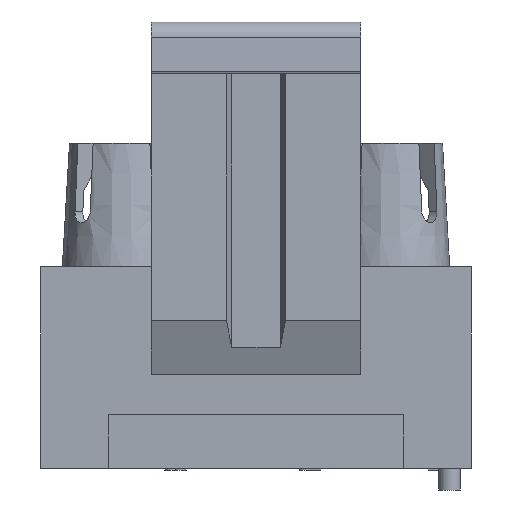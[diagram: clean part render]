
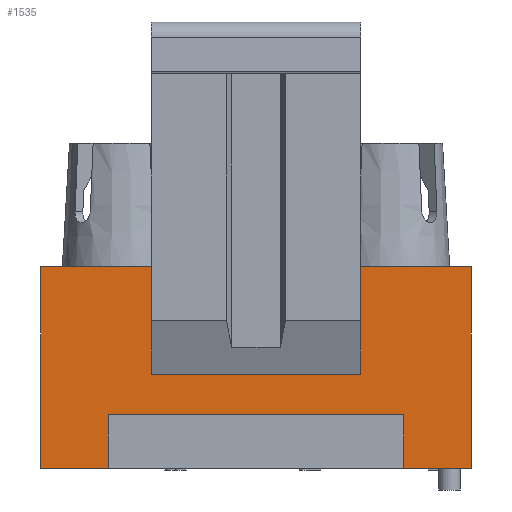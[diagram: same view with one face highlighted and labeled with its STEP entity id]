
A CAD part, front view. The second image highlights one B-rep face of the part: STEP entity #1535.
In plain terms, the highlighted planar face has unit normal (0, -1, 0).
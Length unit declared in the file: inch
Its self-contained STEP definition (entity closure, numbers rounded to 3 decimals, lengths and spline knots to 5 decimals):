
#35 = VERTEX_POINT ( 'NONE', #3735 ) ;
#36 = VERTEX_POINT ( 'NONE', #3737 ) ;
#45 = EDGE_CURVE ( 'NONE', #262, #274, #3739, .T. ) ;
#52 = VERTEX_POINT ( 'NONE', #3721 ) ;
#56 = VERTEX_POINT ( 'NONE', #3715 ) ;
#59 = EDGE_CURVE ( 'NONE', #56, #35, #3758, .T. ) ;
#79 = EDGE_CURVE ( 'NONE', #36, #52, #3764, .T. ) ;
#248 = EDGE_CURVE ( 'NONE', #253, #249, #4004, .T. ) ;
#249 = VERTEX_POINT ( 'NONE', #3979 ) ;
#253 = VERTEX_POINT ( 'NONE', #4047 ) ;
#261 = EDGE_CURVE ( 'NONE', #249, #262, #4037, .T. ) ;
#262 = VERTEX_POINT ( 'NONE', #4042 ) ;
#274 = VERTEX_POINT ( 'NONE', #4026 ) ;
#1443 = VERTEX_POINT ( 'NONE', #6093 ) ;
#1445 = EDGE_CURVE ( 'NONE', #52, #1443, #6097, .T. ) ;
#1453 = EDGE_CURVE ( 'NONE', #1456, #56, #6081, .T. ) ;
#1456 = VERTEX_POINT ( 'NONE', #6085 ) ;
#1465 = EDGE_LOOP ( 'NONE', ( #1481, #1536, #1540, #1467, #1542, #1468, #1523, #1526, #1528, #1529, #1533, #1522, #1512, #1511, #1531, #1515 ) ) ;
#1466 = EDGE_CURVE ( 'NONE', #35, #1544, #6112, .T. ) ;
#1467 = ORIENTED_EDGE ( 'NONE', *, *, #1539, .T. ) ;
#1468 = ORIENTED_EDGE ( 'NONE', *, *, #1521, .F. ) ;
#1473 = VERTEX_POINT ( 'NONE', #6126 ) ;
#1477 = VERTEX_POINT ( 'NONE', #6156 ) ;
#1481 = ORIENTED_EDGE ( 'NONE', *, *, #1538, .T. ) ;
#1482 = VERTEX_POINT ( 'NONE', #6169 ) ;
#1511 = ORIENTED_EDGE ( 'NONE', *, *, #59, .T. ) ;
#1512 = ORIENTED_EDGE ( 'NONE', *, *, #1453, .T. ) ;
#1513 = EDGE_CURVE ( 'NONE', #1544, #1482, #6185, .T. ) ;
#1515 = ORIENTED_EDGE ( 'NONE', *, *, #1513, .T. ) ;
#1521 = EDGE_CURVE ( 'NONE', #253, #1473, #6172, .T. ) ;
#1522 = ORIENTED_EDGE ( 'NONE', *, *, #1534, .T. ) ;
#1523 = ORIENTED_EDGE ( 'NONE', *, *, #248, .T. ) ;
#1524 = VERTEX_POINT ( 'NONE', #6177 ) ;
#1525 = VERTEX_POINT ( 'NONE', #6224 ) ;
#1526 = ORIENTED_EDGE ( 'NONE', *, *, #261, .T. ) ;
#1527 = EDGE_CURVE ( 'NONE', #1525, #274, #6223, .T. ) ;
#1528 = ORIENTED_EDGE ( 'NONE', *, *, #45, .T. ) ;
#1529 = ORIENTED_EDGE ( 'NONE', *, *, #1527, .F. ) ;
#1530 = EDGE_CURVE ( 'NONE', #1524, #1525, #6220, .T. ) ;
#1531 = ORIENTED_EDGE ( 'NONE', *, *, #1466, .T. ) ;
#1533 = ORIENTED_EDGE ( 'NONE', *, *, #1530, .F. ) ;
#1534 = EDGE_CURVE ( 'NONE', #1524, #1456, #6217, .T. ) ;
#1535 = ADVANCED_FACE ( 'NONE', ( #6214 ), #6232, .T. ) ;
#1536 = ORIENTED_EDGE ( 'NONE', *, *, #79, .T. ) ;
#1538 = EDGE_CURVE ( 'NONE', #1482, #36, #6206, .T. ) ;
#1539 = EDGE_CURVE ( 'NONE', #1443, #1477, #4821, .T. ) ;
#1540 = ORIENTED_EDGE ( 'NONE', *, *, #1445, .T. ) ;
#1541 = EDGE_CURVE ( 'NONE', #1473, #1477, #5008, .T. ) ;
#1542 = ORIENTED_EDGE ( 'NONE', *, *, #1541, .F. ) ;
#1544 = VERTEX_POINT ( 'NONE', #5932 ) ;
#3715 = CARTESIAN_POINT ( 'NONE',  ( -0.28163, 0.04467, -0.54527 ) ) ;
#3721 = CARTESIAN_POINT ( 'NONE',  ( 0.26837, 0.04467, -0.54527 ) ) ;
#3729 = DIRECTION ( 'NONE',  ( 0., 0., 1. ) ) ;
#3730 = VECTOR ( 'NONE', #3729, 39.37008 ) ;
#3731 = CARTESIAN_POINT ( 'NONE',  ( -0.20163, 0.04467, -0.27027 ) ) ;
#3735 = CARTESIAN_POINT ( 'NONE',  ( -0.23163, 0.04467, -0.54527 ) ) ;
#3737 = CARTESIAN_POINT ( 'NONE',  ( 0.21837, 0.04467, -0.54527 ) ) ;
#3739 = LINE ( 'NONE', #3731, #3730 ) ;
#3755 = DIRECTION ( 'NONE',  ( 1., 0., 0. ) ) ;
#3756 = VECTOR ( 'NONE', #3755, 39.37008 ) ;
#3757 = CARTESIAN_POINT ( 'NONE',  ( -0.40663, 0.04467, -0.54527 ) ) ;
#3758 = LINE ( 'NONE', #3757, #3756 ) ;
#3764 = LINE ( 'NONE', #3801, #3800 ) ;
#3799 = DIRECTION ( 'NONE',  ( 1., 0., 0. ) ) ;
#3800 = VECTOR ( 'NONE', #3799, 39.37008 ) ;
#3801 = CARTESIAN_POINT ( 'NONE',  ( -0.40663, 0.04467, -0.54527 ) ) ;
#3979 = CARTESIAN_POINT ( 'NONE',  ( 0.18837, 0.04467, -0.47027 ) ) ;
#3987 = DIRECTION ( 'NONE',  ( 0., 0., -1. ) ) ;
#3988 = VECTOR ( 'NONE', #3987, 39.37008 ) ;
#4003 = CARTESIAN_POINT ( 'NONE',  ( 0.18837, 0.04467, -0.27027 ) ) ;
#4004 = LINE ( 'NONE', #4003, #3988 ) ;
#4026 = CARTESIAN_POINT ( 'NONE',  ( -0.20163, 0.04467, -0.27027 ) ) ;
#4034 = DIRECTION ( 'NONE',  ( -1., 0., 0. ) ) ;
#4035 = VECTOR ( 'NONE', #4034, 39.37008 ) ;
#4036 = CARTESIAN_POINT ( 'NONE',  ( -0.40663, 0.04467, -0.47027 ) ) ;
#4037 = LINE ( 'NONE', #4036, #4035 ) ;
#4042 = CARTESIAN_POINT ( 'NONE',  ( -0.20163, 0.04467, -0.47027 ) ) ;
#4047 = CARTESIAN_POINT ( 'NONE',  ( 0.18837, 0.04467, -0.27027 ) ) ;
#4080 = VECTOR ( 'NONE', #4566, 39.37008 ) ;
#4566 = DIRECTION ( 'NONE',  ( 0., 0., 1. ) ) ;
#4820 = CARTESIAN_POINT ( 'NONE',  ( -0.40663, 0.04467, -0.64527 ) ) ;
#4821 = LINE ( 'NONE', #4820, #5036 ) ;
#5008 = LINE ( 'NONE', #5037, #5056 ) ;
#5009 = DIRECTION ( 'NONE',  ( 1., 0., 0. ) ) ;
#5036 = VECTOR ( 'NONE', #5009, 39.37008 ) ;
#5037 = CARTESIAN_POINT ( 'NONE',  ( 0.39337, 0.04467, -0.27027 ) ) ;
#5055 = DIRECTION ( 'NONE',  ( 0., 0., -1. ) ) ;
#5056 = VECTOR ( 'NONE', #5055, 39.37008 ) ;
#5932 = CARTESIAN_POINT ( 'NONE',  ( -0.23163, 0.04467, -0.64527 ) ) ;
#6081 = LINE ( 'NONE', #6135, #6133 ) ;
#6082 = DIRECTION ( 'NONE',  ( 0., 0., -1. ) ) ;
#6083 = VECTOR ( 'NONE', #6082, 39.37008 ) ;
#6084 = CARTESIAN_POINT ( 'NONE',  ( 0.26837, 0.04467, -0.27027 ) ) ;
#6085 = CARTESIAN_POINT ( 'NONE',  ( -0.28163, 0.04467, -0.64527 ) ) ;
#6093 = CARTESIAN_POINT ( 'NONE',  ( 0.26837, 0.04467, -0.64527 ) ) ;
#6097 = LINE ( 'NONE', #6084, #6083 ) ;
#6109 = DIRECTION ( 'NONE',  ( 0., 0., -1. ) ) ;
#6110 = VECTOR ( 'NONE', #6109, 39.37008 ) ;
#6111 = CARTESIAN_POINT ( 'NONE',  ( -0.23163, 0.04467, -0.27027 ) ) ;
#6112 = LINE ( 'NONE', #6111, #6110 ) ;
#6126 = CARTESIAN_POINT ( 'NONE',  ( 0.39337, 0.04467, -0.27027 ) ) ;
#6132 = DIRECTION ( 'NONE',  ( 0., 0., 1. ) ) ;
#6133 = VECTOR ( 'NONE', #6132, 39.37008 ) ;
#6135 = CARTESIAN_POINT ( 'NONE',  ( -0.28163, 0.04467, -0.27027 ) ) ;
#6156 = CARTESIAN_POINT ( 'NONE',  ( 0.39337, 0.04467, -0.64527 ) ) ;
#6169 = CARTESIAN_POINT ( 'NONE',  ( 0.21837, 0.04467, -0.64527 ) ) ;
#6172 = LINE ( 'NONE', #6227, #6226 ) ;
#6174 = DIRECTION ( 'NONE',  ( 1., 0., 0. ) ) ;
#6175 = VECTOR ( 'NONE', #6174, 39.37008 ) ;
#6177 = CARTESIAN_POINT ( 'NONE',  ( -0.40663, 0.04467, -0.64527 ) ) ;
#6183 = CARTESIAN_POINT ( 'NONE',  ( -0.40663, 0.04467, -0.64527 ) ) ;
#6185 = LINE ( 'NONE', #6183, #6175 ) ;
#6200 = DIRECTION ( 'NONE',  ( 0., 0., -1. ) ) ;
#6201 = DIRECTION ( 'NONE',  ( 0., -1., 0. ) ) ;
#6202 = CARTESIAN_POINT ( 'NONE',  ( -0.40663, 0.04467, -0.27027 ) ) ;
#6205 = CARTESIAN_POINT ( 'NONE',  ( 0.21837, 0.04467, -0.54527 ) ) ;
#6206 = LINE ( 'NONE', #6205, #4080 ) ;
#6208 = DIRECTION ( 'NONE',  ( 1., 0., 0. ) ) ;
#6209 = AXIS2_PLACEMENT_3D ( 'NONE', #6202, #6201, #6200 ) ;
#6213 = VECTOR ( 'NONE', #6218, 39.37008 ) ;
#6214 = FACE_OUTER_BOUND ( 'NONE', #1465, .T. ) ;
#6215 = VECTOR ( 'NONE', #6208, 39.37008 ) ;
#6216 = CARTESIAN_POINT ( 'NONE',  ( -0.40663, 0.04467, -0.64527 ) ) ;
#6217 = LINE ( 'NONE', #6216, #6215 ) ;
#6218 = DIRECTION ( 'NONE',  ( 0., 0., 1. ) ) ;
#6219 = CARTESIAN_POINT ( 'NONE',  ( -0.40663, 0.04467, -0.27027 ) ) ;
#6220 = LINE ( 'NONE', #6219, #6213 ) ;
#6222 = CARTESIAN_POINT ( 'NONE',  ( -0.00663, 0.04467, -0.27027 ) ) ;
#6223 = LINE ( 'NONE', #6222, #6229 ) ;
#6224 = CARTESIAN_POINT ( 'NONE',  ( -0.40663, 0.04467, -0.27027 ) ) ;
#6225 = DIRECTION ( 'NONE',  ( 1., 0., 0. ) ) ;
#6226 = VECTOR ( 'NONE', #6225, 39.37008 ) ;
#6227 = CARTESIAN_POINT ( 'NONE',  ( -0.00663, 0.04467, -0.27027 ) ) ;
#6228 = DIRECTION ( 'NONE',  ( 1., 0., 0. ) ) ;
#6229 = VECTOR ( 'NONE', #6228, 39.37008 ) ;
#6232 = PLANE ( 'NONE',  #6209 ) ;
